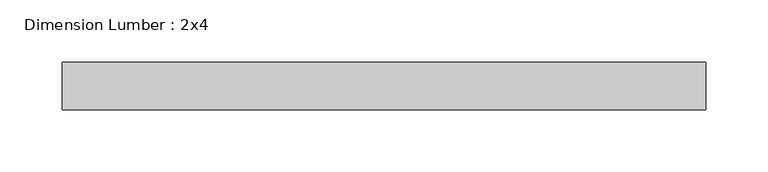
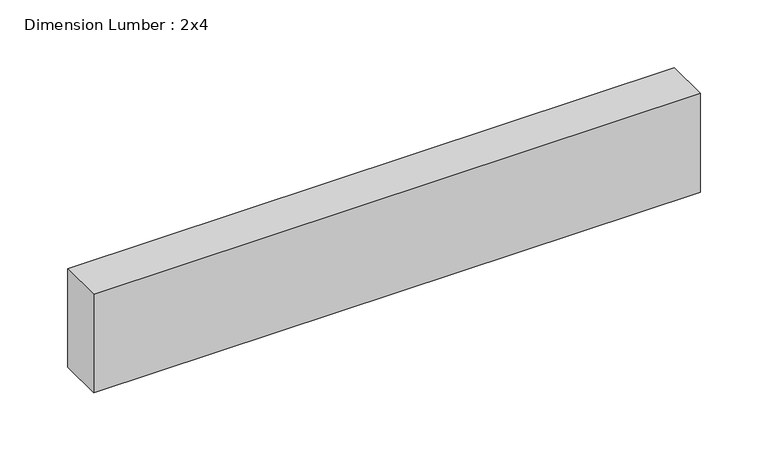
"""IFC4 building model written with IfcOpenShell, lengths in millimetres: beam geometry, Dimension Lumber : 2x4."""

from ifc_helpers import new_model, si_unit, frame, origin, place, context, project, spatial, polyline, outline, extrude, source, transform, mapped, element, save


def dimension_lumber_2x4_e18db46b(model_context):
    return source(origin(), model_context, "Body", "SweptSolid", [
        extrude(outline(polyline([(258.5750273, 19.05), (258.5750273, -19.05), (-258.5750273, -19.05), (-258.5750273, 19.05), (258.5750273, 19.05)])), frame((0.0, 0.0, -44.45), z_axis=(0.0, 0.0, 1.0), x_axis=(1.0, 0.0, 0.0)), (0.0, 0.0, 1.0), 88.9),
    ])


if __name__ == "__main__":
    model = new_model("IFC4")
    model_context = context("Model", 3, world=origin())
    ifc_project = project(units=[si_unit("LENGTHUNIT", "METRE", prefix="MILLI")], contexts=[model_context])
    site = spatial("IfcSite", under=ifc_project)
    building = spatial("IfcBuilding", under=site)
    placement = place(None, origin())
    dimension_lumber_2x4_shape = dimension_lumber_2x4_e18db46b(model_context)
    element("IfcBeam", 1, ObjectType="Dimension Lumber : 2x4", at=placement, inside=building, context=model_context, shape_type="MappedRepresentation", body=[
        mapped(dimension_lumber_2x4_shape, transform((0.0, 0.0, 0.0), x_axis=(1.0, 0.0, 0.0), y_axis=(0.0, 1.0, 0.0), z_axis=(0.0, 0.0, 1.0))),
    ])
    save(model, "model.ifc")
